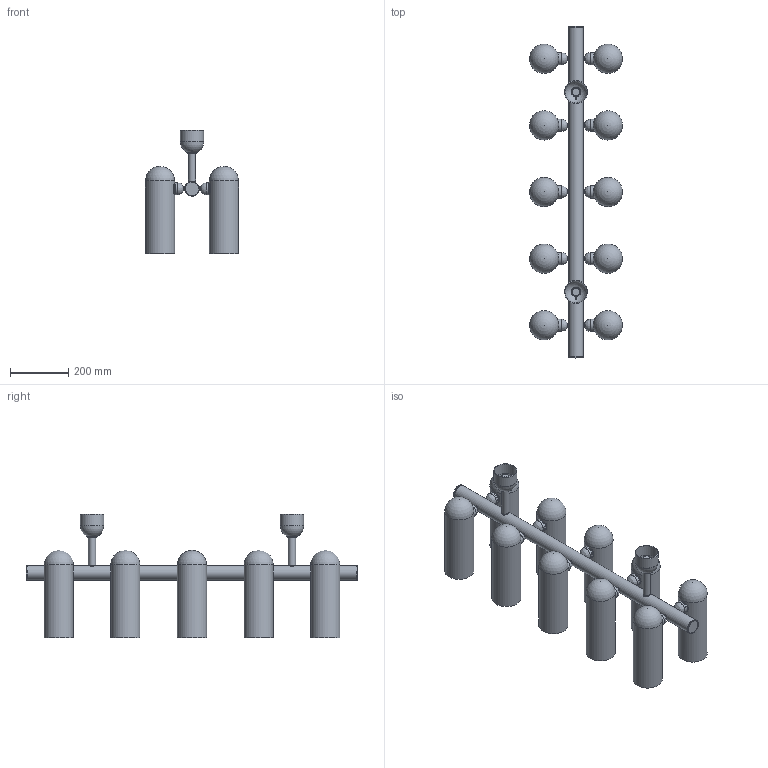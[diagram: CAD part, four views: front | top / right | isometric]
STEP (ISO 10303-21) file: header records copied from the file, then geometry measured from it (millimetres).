
FILE_DESCRIPTION(/* description */ (''),/* implementation_level */ '2;1');
FILE_NAME(/* name */ 'T:\B144 Odyssey Linear Chandelier SM\Pliki bryłowe handlowe\B144 Odyssey Linear SM 3D files_na stronę\B144 Odyssey Linear SM.stp',/* time_stamp */ '2022-02-02T13:36:46+01:00',/* author */ ('Mariusz Awariusz'),/* organization */ (''),/* preprocessor_version */ 'ST-DEVELOPER v18.1',/* originating_system */ 'Autodesk Inventor 2022',/* authorisation */ '');
FILE_SCHEMA (('AUTOMOTIVE_DESIGN { 1 0 10303 214 3 1 1 }'));
Length unit declared in the file: millimetre
Products named in the file (1): B144 Odyssey Linear Chandelier SM CE v12_na potrzeby plików 3D_2_
jako część_korpusy bryłowe
Bounding box: 319.1 x 1139 x 424 mm (x, y, z)
Volume: 25236670 mm3; surface area: 1430191.1 mm2
Topology: 63 solids, 63 shells, 259 faces, 417 edges, 276 vertices
Faces by surface type: plane 106, cylinder 99, bspline 32, sphere 16, cone 6
Full cylindrical faces by diameter (mm): 4 x2, 10 x10, 13 x10, 25 x4, 28 x4, 30 x2, 31.5 x2, 32 x2, 37 x10, 42 x10, 44 x10, 46 x2, 48 x2, 50 x3, 76 x2, 80 x2, 100 x10
Entity records: 20248 total; most frequent: CARTESIAN_POINT 15385, DIRECTION 1063, ORIENTED_EDGE 814, AXIS2_PLACEMENT_3D 480, EDGE_CURVE 407, EDGE_LOOP 293, VERTEX_POINT 276, FACE_OUTER_BOUND 259
